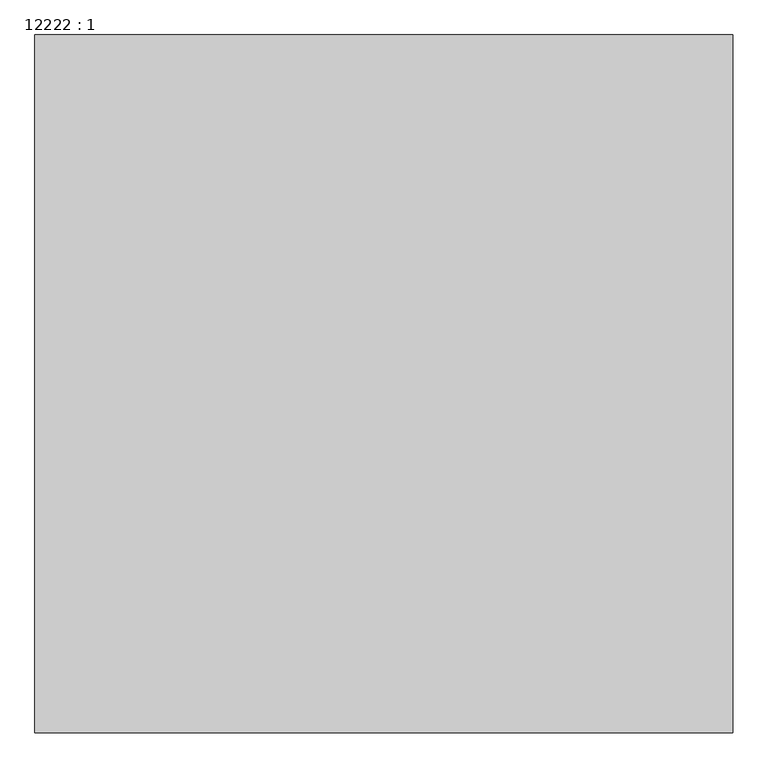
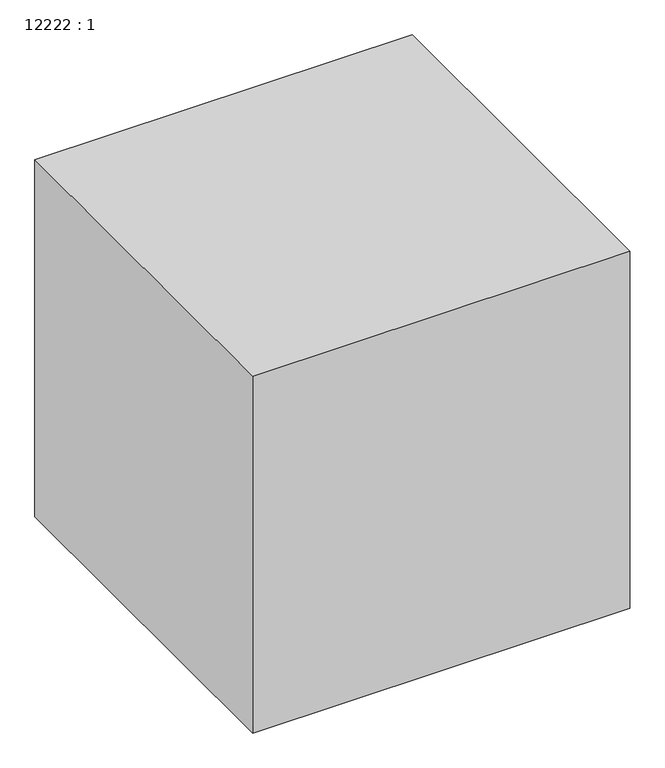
"""IFC4 building model written with IfcOpenShell, lengths in millimetres: proxy geometry, 12222 : 1."""

import ifcopenshell
import ifcopenshell.guid

model = None  # the IFC model being written
_history = None  # IfcOwnerHistory: only IFC2X3 demands one
_inside = {}  # id of a spatial element -> (the spatial element, [elements in it])
_under = {}  # id of a project, library or spatial element -> (it, [spatial elements below it])
_declared = {}  # id of a project -> (the project, [libraries it declares])
_typed = {}  # id of a type object -> (the type object, [elements of that type])
_made_of = {}  # id of a material, layer set ... -> (it, [elements and type objects made of it])


def new_model(schema):
    """Start an empty IFC model of exactly this schema.

    Asked for "IFC4X3", IfcOpenShell would pick the latest addendum, in which some entities
    have other attributes; the version numbers below select the first issue.
    IFC2X3 requires an IfcOwnerHistory on every rooted entity: one is made here for all.
    """
    global model, _history
    if schema == "IFC4X3":
        model = ifcopenshell.file(schema_version=(4, 3, 0, 0))
    else:
        model = ifcopenshell.file(schema=schema)
    _inside.clear()
    _under.clear()
    _declared.clear()
    _typed.clear()
    _made_of.clear()
    _history = None
    if model.schema == "IFC2X3":
        org = make("IfcOrganization", Name="unknown")
        user = make(
            "IfcPersonAndOrganization",
            ThePerson=make("IfcPerson", FamilyName="unknown"),
            TheOrganization=org,
        )
        app = make(
            "IfcApplication",
            ApplicationDeveloper=org,
            Version="unknown",
            ApplicationFullName="unknown",
            ApplicationIdentifier="unknown",
        )
        _history = make(
            "IfcOwnerHistory",
            OwningUser=user,
            OwningApplication=app,
            ChangeAction="ADDED",
            CreationDate=0,
        )
    return model


def make(cls, **values):
    """One entity of the class cls with the attributes given. An attribute that is None is left unset."""
    return model.create_entity(
        cls, **{name: value for name, value in values.items() if value is not None}
    )


def rooted(cls, **values):
    """An entity with a GlobalId (a new one), such as an element, a storey or a relation."""
    return make(cls, GlobalId=ifcopenshell.guid.new(), OwnerHistory=_history, **values)


def si_unit(unit_type, name, prefix=None):
    """IfcSIUnit, for example si_unit("LENGTHUNIT", "METRE", prefix="MILLI")."""
    return make("IfcSIUnit", UnitType=unit_type, Prefix=prefix, Name=name)


def assignment(units):
    """IfcUnitAssignment: the units of a project."""
    return None if units is None else make("IfcUnitAssignment", Units=units)


def point(xyz):
    """IfcCartesianPoint."""
    return None if xyz is None else make("IfcCartesianPoint", Coordinates=xyz)


def direction(xyz):
    """IfcDirection."""
    return None if xyz is None else make("IfcDirection", DirectionRatios=xyz)


def frame(location, z_axis=None, x_axis=None):
    """IfcAxis2Placement3D, a coordinate frame: its origin and axes. An axis left out is left unset."""
    return make(
        "IfcAxis2Placement3D",
        Location=point(location),
        Axis=direction(z_axis),
        RefDirection=direction(x_axis),
    )


def origin():
    """The frame at (0, 0, 0) with its axes left unset."""
    return frame((0.0, 0.0, 0.0))


def origin_with_axes():
    """The frame at (0, 0, 0) with the z axis (0, 0, 1) and the x axis (1, 0, 0) written out."""
    return frame((0.0, 0.0, 0.0), z_axis=(0.0, 0.0, 1.0), x_axis=(1.0, 0.0, 0.0))


def place(relative_to, where):
    """IfcLocalPlacement: puts the frame where relative to a parent placement (None: the world)."""
    return make(
        "IfcLocalPlacement", PlacementRelTo=relative_to, RelativePlacement=where
    )


def context(
    kind, dimensions, precision=None, world=None, true_north=None, identifier=None
):
    """IfcGeometricRepresentationContext, for example the 3D "Model" context."""
    return make(
        "IfcGeometricRepresentationContext",
        ContextIdentifier=identifier,
        ContextType=kind,
        CoordinateSpaceDimension=dimensions,
        Precision=precision,
        WorldCoordinateSystem=world,
        TrueNorth=true_north,
    )


def project(units=None, contexts=None):
    """IfcProject with its units and contexts."""
    return rooted(
        "IfcProject",
        Name="project",
        RepresentationContexts=contexts,
        UnitsInContext=assignment(units),
    )


def spatial(cls, under=None, at=None, **own):
    """A site, building, storey or space (cls), placed at a placement, below another one or the project."""
    s = rooted(cls, ObjectPlacement=at, **own)
    if under is not None:
        _under.setdefault(under.id(), (under, []))[1].append(s)
    return s


def polyline(points):
    """IfcPolyline through the points."""
    return make("IfcPolyline", Points=[point(p) for p in points])


def outline(outer, holes=None, kind="AREA"):
    """IfcArbitraryClosedProfileDef: a profile drawn as a closed curve; with holes, ...WithVoids."""
    if holes is None:
        return make("IfcArbitraryClosedProfileDef", ProfileType=kind, OuterCurve=outer)
    return make(
        "IfcArbitraryProfileDefWithVoids",
        ProfileType=kind,
        OuterCurve=outer,
        InnerCurves=holes,
    )


def extrude(swept, where, along, depth):
    """IfcExtrudedAreaSolid: the profile swept, set in the frame where, extruded along a direction by depth."""
    return make(
        "IfcExtrudedAreaSolid",
        SweptArea=swept,
        Position=where,
        ExtrudedDirection=direction(along),
        Depth=depth,
    )


def shape(context_of_items, identifier, shape_type, items):
    """IfcShapeRepresentation: the items that make up one representation, for example the "Body"."""
    return make(
        "IfcShapeRepresentation",
        ContextOfItems=context_of_items,
        RepresentationIdentifier=identifier,
        RepresentationType=shape_type,
        Items=items,
    )


def source(mapping_origin, context_of_items, identifier, shape_type, items):
    """IfcRepresentationMap: a shape defined once, which mapped items show again and again."""
    return make(
        "IfcRepresentationMap",
        MappingOrigin=mapping_origin,
        MappedRepresentation=shape(context_of_items, identifier, shape_type, items),
    )


def transform(
    local_origin,
    x_axis=None,
    y_axis=None,
    z_axis=None,
    scale=None,
    scale2=None,
    scale3=None,
    uniform=True,
):
    """IfcCartesianTransformationOperator3D, or its non-uniform kind. x_axis, y_axis, z_axis: its Axis1, 2, 3."""
    if uniform:
        return make(
            "IfcCartesianTransformationOperator3D",
            Axis1=direction(x_axis),
            Axis2=direction(y_axis),
            LocalOrigin=point(local_origin),
            Scale=scale,
            Axis3=direction(z_axis),
        )
    return make(
        "IfcCartesianTransformationOperator3DnonUniform",
        Axis1=direction(x_axis),
        Axis2=direction(y_axis),
        LocalOrigin=point(local_origin),
        Scale=scale,
        Axis3=direction(z_axis),
        Scale2=scale2,
        Scale3=scale3,
    )


def mapped(mapping_source, mapping_target):
    """IfcMappedItem: shows the shape of a source again, moved by a transform."""
    return make(
        "IfcMappedItem", MappingSource=mapping_source, MappingTarget=mapping_target
    )


def made_of(thing, what):
    """Note that an element or type object is made of a material, layer set ...; save() writes the relation."""
    if what is not None:
        _made_of.setdefault(what.id(), (what, []))[1].append(thing)
    return thing


def element(
    cls,
    number,
    at=None,
    inside=None,
    cuts=None,
    type_object=None,
    material=None,
    context=None,
    identifier="Body",
    shape_type=None,
    held_by="IfcProductDefinitionShape",
    body=None,
    shapes=None,
    **own,
):
    """One element of the class cls, such as IfcWall. Its Tag is "e" and its number.

    at: its placement. inside: the storey or other place that contains it. cuts: it is an
    opening in that element (IfcRelVoidsElement). A single representation is given by context,
    identifier, shape_type and body (its items); several are given by shapes. held_by: the class
    of the entity that holds the representations. save() writes the other relations.
    """
    e = rooted(cls, Tag="e%d" % number, ObjectPlacement=at, **own)
    if body is not None:
        shapes = [shape(context, identifier, shape_type, body)]
    if shapes is not None:
        e.Representation = make(held_by, Representations=shapes)
    if inside is not None:
        _inside.setdefault(inside.id(), (inside, []))[1].append(e)
    if cuts is not None:
        rooted(
            "IfcRelVoidsElement", RelatingBuildingElement=cuts, RelatedOpeningElement=e
        )
    if type_object is not None:
        _typed.setdefault(type_object.id(), (type_object, []))[1].append(e)
    return made_of(e, material)


def aggregate(whole, parts):
    """IfcRelAggregates: a whole, such as a stair, and the parts it consists of."""
    return rooted("IfcRelAggregates", RelatingObject=whole, RelatedObjects=parts)


def save(model, path):
    """Write the relations noted so far, then the file.

    IfcRelAggregates (storeys below a building ...), IfcRelContainedInSpatialStructure (elements
    in a storey), IfcRelDefinesByType, IfcRelAssociatesMaterial and IfcRelDeclares: one each for
    every whole, place, type object, material and project.
    """
    for whole, parts in _under.values():
        aggregate(whole, parts)
    for where, things in _inside.values():
        rooted(
            "IfcRelContainedInSpatialStructure",
            RelatedElements=things,
            RelatingStructure=where,
        )
    for kind, things in _typed.values():
        rooted("IfcRelDefinesByType", RelatedObjects=things, RelatingType=kind)
    for what, things in _made_of.values():
        rooted("IfcRelAssociatesMaterial", RelatedObjects=things, RelatingMaterial=what)
    for by, libraries in _declared.values():
        rooted("IfcRelDeclares", RelatingContext=by, RelatedDefinitions=libraries)
    model.write(path)


def proxy_12222_1_6f8a0e2f(model_context):
    return source(origin(), model_context, "Body", "SweptSolid", [
        extrude(outline(polyline([(-14307.9756708, 7335.2294472), (-14307.9756708, 6335.2294472), (-15307.9756708, 6335.2294472), (-15307.9756708, 7335.2294472), (-14307.9756708, 7335.2294472)])), origin_with_axes(), (0.0, 0.0, 1.0), 1000.0),
    ])


if __name__ == "__main__":
    model = new_model("IFC4")
    model_context = context("Model", 3, world=origin())
    ifc_project = project(units=[si_unit("LENGTHUNIT", "METRE", prefix="MILLI")], contexts=[model_context])
    site = spatial("IfcSite", under=ifc_project)
    building = spatial("IfcBuilding", under=site)
    placement = place(None, origin())
    proxy_12222_1_shape = proxy_12222_1_6f8a0e2f(model_context)
    element("IfcBuildingElementProxy", 1, Name="12222 : 1", ObjectType="12222 : 1", at=placement, inside=building, context=model_context, shape_type="MappedRepresentation", body=[
        mapped(proxy_12222_1_shape, transform((0.0, 0.0, 0.0), x_axis=(1.0, 0.0, 0.0), y_axis=(0.0, 1.0, 0.0), z_axis=(0.0, 0.0, 1.0))),
    ])
    save(model, "model.ifc")
